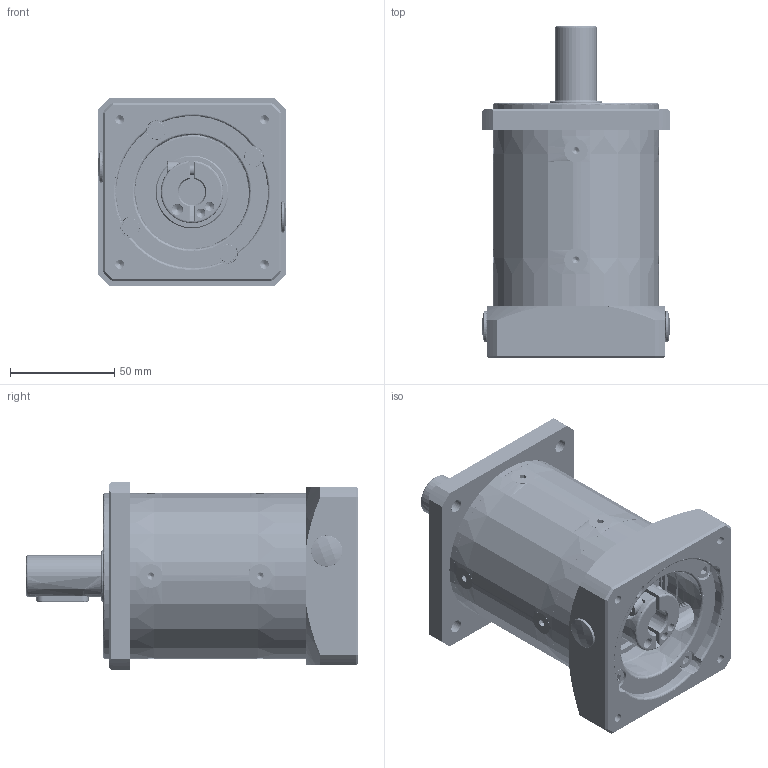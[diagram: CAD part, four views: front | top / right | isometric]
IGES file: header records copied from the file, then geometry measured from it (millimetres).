
Start section: SolidWorks IGES file using analytic representation for surfaces
Global section: file name: C:\TeknicPDM\Remarketed and Private Label Products\Gearboxes\Gearbox Customer Files\GSFL (Newstart PF Series)\GSFL-080-0_ _-N034_-XX Two Stage.IGS; native system: SolidWorks 2020; preprocessor: SolidWorks 2020; author: zeb_koch; date: 250825.160238; units: millimetre
Bounding box: 90.39 x 159.5 x 90 mm (x, y, z)
Surface area: 175471.9 mm2 (no closed solid volume)
Topology: 0 solids, 0 shells, 1395 faces, 30511 edges, 30331 vertices
Faces by surface type: bspline 739, revolution 656
